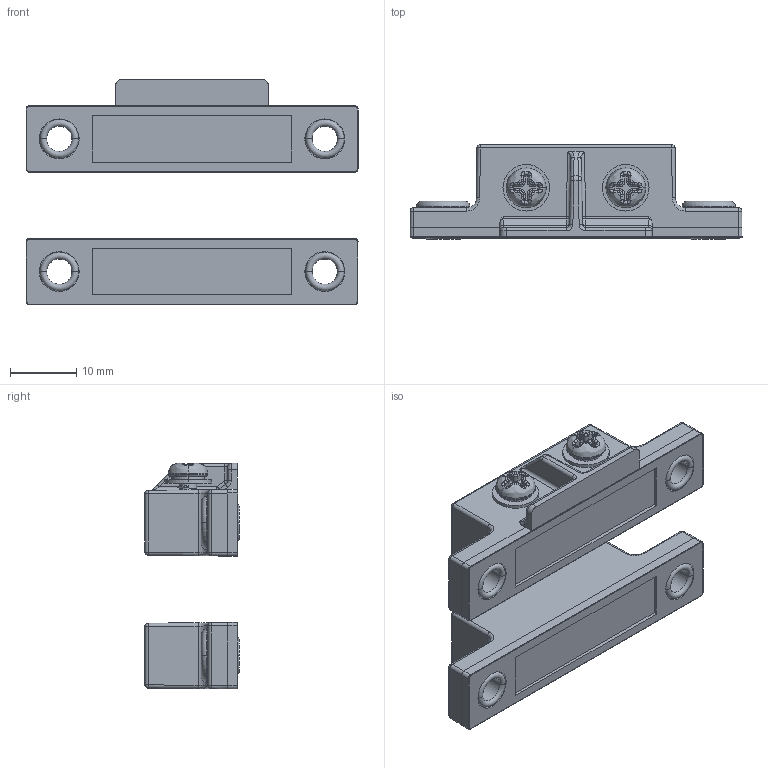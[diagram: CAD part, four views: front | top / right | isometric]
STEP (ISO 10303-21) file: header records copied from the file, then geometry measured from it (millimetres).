
FILE_DESCRIPTION((''),'2;1');
FILE_NAME('MA-GLS-1_ASM','2023-12-26T15:14:58',('13553236702'),(''),'CREO PARAMETRIC BY PTC INC, 2022164','CREO PARAMETRIC BY PTC INC, 2022164','');
FILE_SCHEMA(('CONFIG_CONTROL_DESIGN'));
Length unit declared in the file: millimetre
Products named in the file (4): PRT0001_4_1; PRT0001_4_2; PRT0001_4_ASM; MA-GLS-1_ASM
Assembly tree (3 placements, depth 3):
  MA-GLS-1_ASM
    PRT0001_4_ASM
      PRT0001_4_1
      PRT0001_4_2
Bounding box: 50 x 14.2 x 34 mm (x, y, z)
Volume: 10166.8 mm3; surface area: 5536.4 mm2
Topology: 2 solids, 2 shells, 470 faces, 1138 edges, 674 vertices
Faces by surface type: cylinder 197, plane 105, bspline 88, torus 64, sphere 16
Entity records: 18300 total; most frequent: CARTESIAN_POINT 7749, ORIENTED_EDGE 2244, DIRECTION 2166, EDGE_CURVE 1122, AXIS2_PLACEMENT_3D 885, VERTEX_POINT 674, EDGE_LOOP 496, CIRCLE 494
